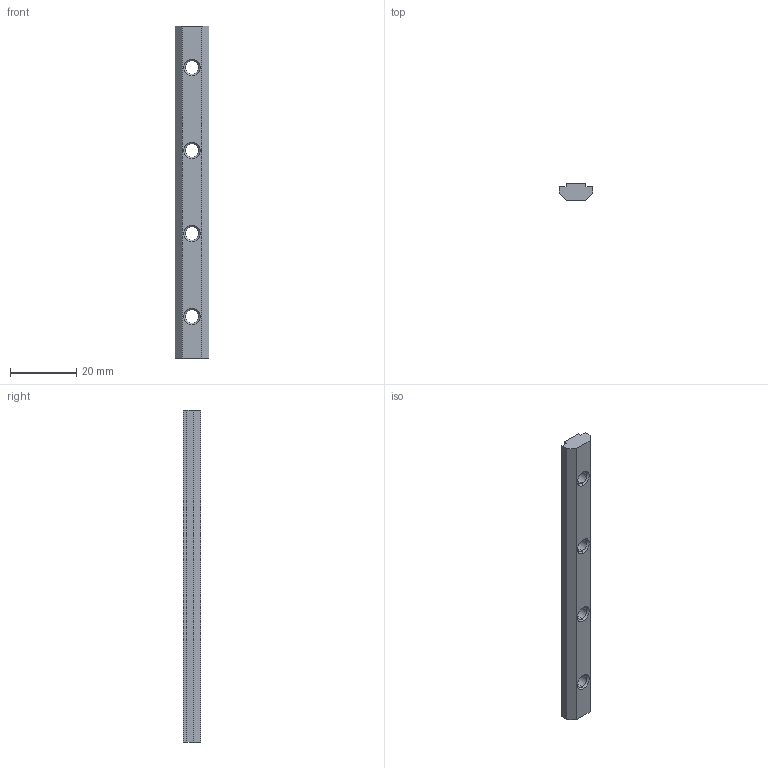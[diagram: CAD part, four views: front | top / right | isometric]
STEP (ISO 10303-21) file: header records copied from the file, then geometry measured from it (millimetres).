
FILE_DESCRIPTION (( 'STEP AP214' ), '1' );
FILE_NAME ('2063.STEP', '2017-08-09T08:26:00', ( '' ), ( '' ), 'SwSTEP 2.0', 'SolidWorks 2014', '' );
FILE_SCHEMA (( 'AUTOMOTIVE_DESIGN' ));
Length unit declared in the file: millimetre
Products named in the file (2): 2063
Bounding box: 10 x 5.12 x 100 mm (x, y, z)
Volume: 4000.3 mm3; surface area: 2991.2 mm2
Topology: 1 solids, 1 shells, 36 faces, 86 edges, 52 vertices
Faces by surface type: cone 16, plane 12, cylinder 8
Entity records: 1099 total; most frequent: DIRECTION 194, CARTESIAN_POINT 176, ORIENTED_EDGE 172, EDGE_CURVE 86, AXIS2_PLACEMENT_3D 70, LINE 54, VECTOR 54, VERTEX_POINT 52
